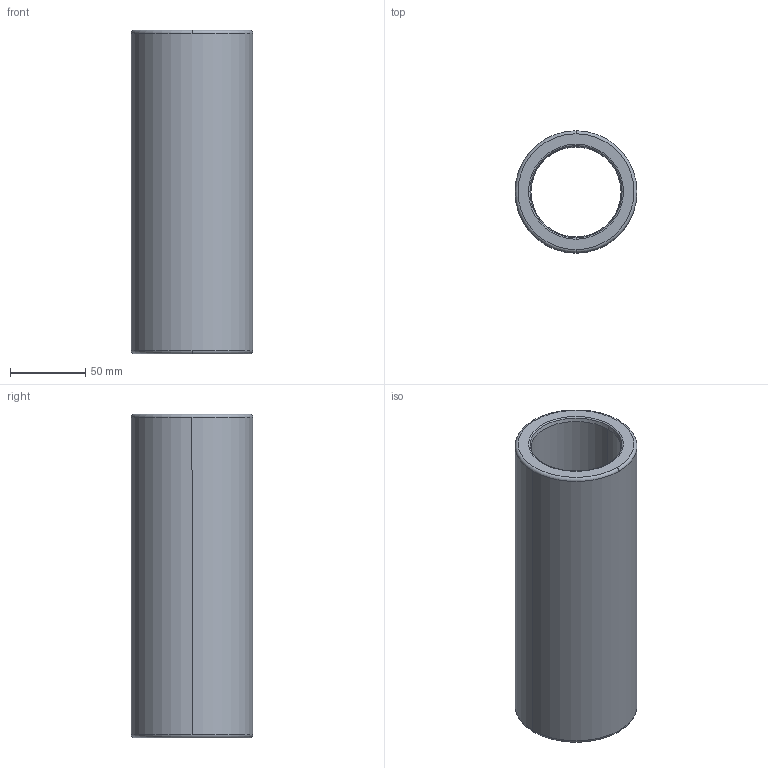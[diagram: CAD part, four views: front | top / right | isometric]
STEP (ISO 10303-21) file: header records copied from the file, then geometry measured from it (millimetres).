
FILE_DESCRIPTION((''),'2;1');
FILE_NAME('B30_048_215.stp','2009-01-12T10:55:16',(''),(''),'Mechanical Desktop 2009','Mechanical Desktop 2009',', , ');
FILE_SCHEMA(('CONFIG_CONTROL_DESIGN'));
Length unit declared in the file: millimetre
Products named in the file (2): Product; blmdl1
Assembly tree (1 placements, depth 2):
  Product
    blmdl1
Bounding box: 80.98 x 80.98 x 215 mm (x, y, z)
Volume: 499385.1 mm3; surface area: 99075.6 mm2
Topology: 1 solids, 1 shells, 18 faces, 48 edges, 32 vertices
Faces by surface type: torus 8, cylinder 4, cone 4, plane 2
Entity records: 705 total; most frequent: DIRECTION 128, CARTESIAN_POINT 100, ORIENTED_EDGE 96, AXIS2_PLACEMENT_3D 60, EDGE_CURVE 48, CIRCLE 40, VERTEX_POINT 32, EDGE_LOOP 20
